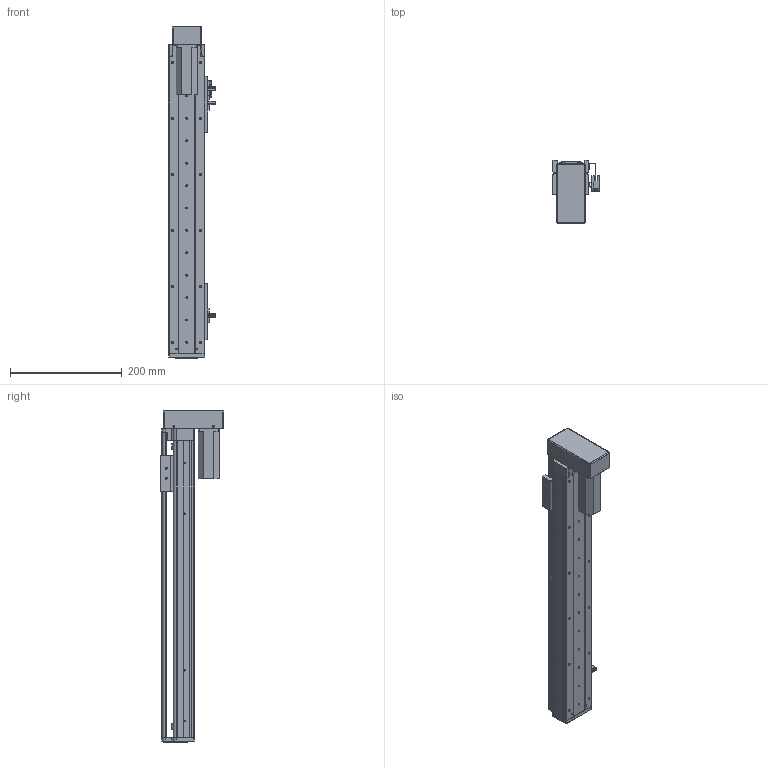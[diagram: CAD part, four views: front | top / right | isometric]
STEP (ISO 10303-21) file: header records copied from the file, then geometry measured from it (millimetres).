
FILE_DESCRIPTION (( 'STEP AP203' ), '1' );
FILE_NAME ('RY60-L1210-300-BK.SLDASM_400.step', '2021-02-20T06:42:10', ( '盈信电脑' ), ( '东莞市道滘镇水果街19号' ), 'SwSTEP 2.0', 'SolidWorks 2012', '' );
FILE_SCHEMA (( 'CONFIG_CONTROL_DESIGN' ));
Length unit declared in the file: millimetre
Products named in the file (13): 滅袉蝶18-10; RY60-L1210-300-BK.SLDASM_400; RY60狟殏萇儂假蚾啣; RY60狟殏萇儂欶100W; 侂狟100W; RY60綴裔啣; RY60转折电机端支撑座; 覜茼ん672; RY80俋离覜茼え; RY60臏賑輸; 672嫖萇羲壽假蚾釱; RY60-300倰第裔啣-BK_400; RY60-300倰第菁釱-BK_400
Assembly tree (18 placements, depth 2):
  RY60-L1210-300-BK.SLDASM_400
    RY60-300倰第菁釱-BK_400
    RY60臏賑輸
    RY60-300倰第裔啣-BK_400
    672嫖萇羲壽假蚾釱  x2
    RY60綴裔啣
    覜茼ん672  x3
    RY80俋离覜茼え
    RY60转折电机端支撑座
    RY60狟殏萇儂假蚾啣
    侂狟100W
    RY60狟殏萇儂欶100W
    滅袉蝶18-10  x4
Bounding box: 83.7 x 113.5 x 593 mm (x, y, z)
Volume: 818047.8 mm3; surface area: 407821.5 mm2
Topology: 18 solids, 18 shells, 1426 faces, 3980 edges, 2550 vertices
Faces by surface type: plane 711, cylinder 592, cone 106, bspline 17
Entity records: 42427 total; most frequent: CARTESIAN_POINT 10009, ORIENTED_EDGE 6532, DIRECTION 6342, EDGE_CURVE 3266, AXIS2_PLACEMENT_3D 2173, VERTEX_POINT 2130, VECTOR 1996, LINE 1996
